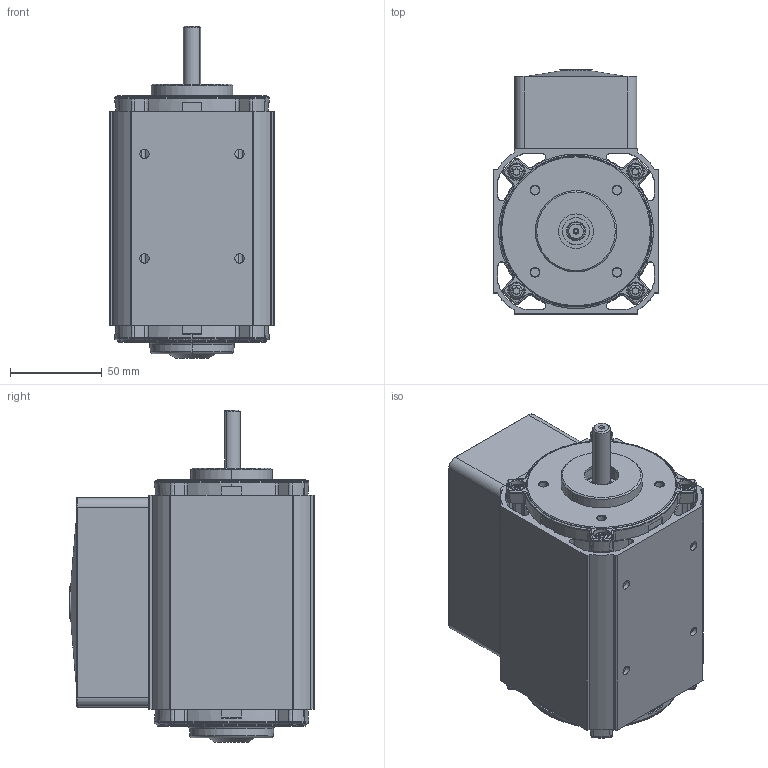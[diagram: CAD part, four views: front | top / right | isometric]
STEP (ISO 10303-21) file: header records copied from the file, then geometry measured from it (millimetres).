
FILE_DESCRIPTION (( 'STEP AP203' ), '1' );
FILE_NAME ('OUTLINE AC8040NV.STEP', '2006-09-21T13:55:26', ( 'Groschopp' ), ( 'Groschopp' ), 'SwSTEP 2.0', 'SolidWorks 2007', '' );
FILE_SCHEMA (( 'CONFIG_CONTROL_DESIGN' ));
Products named in the file (1): OUTLINE AC8040NV
Bounding box: 90.25 x 133.49 x 181.43 mm (x, y, z)
Surface area: 141232.7 mm2 (no closed solid volume)
Topology: 0 solids, 35 shells, 879 faces, 2749 edges, 1851 vertices
Faces by surface type: plane 304, cylinder 275, bspline 113, torus 86, cone 85, sphere 16
Entity records: 36012 total; most frequent: CARTESIAN_POINT 12577, ORIENTED_EDGE 4770, DIRECTION 4767, EDGE_CURVE 2749, AXIS2_PLACEMENT_3D 1882, VERTEX_POINT 1851, CIRCLE 1115, VECTOR 1003
